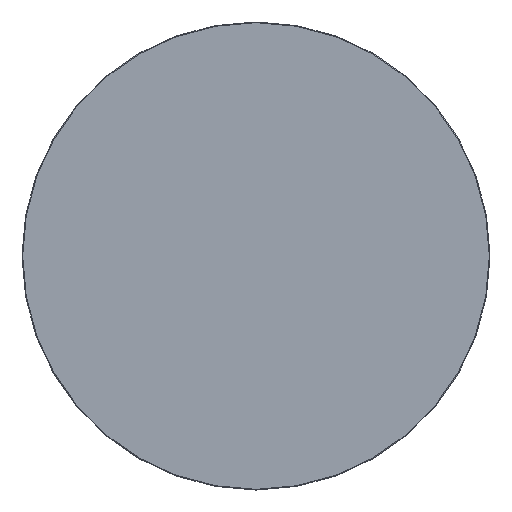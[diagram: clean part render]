
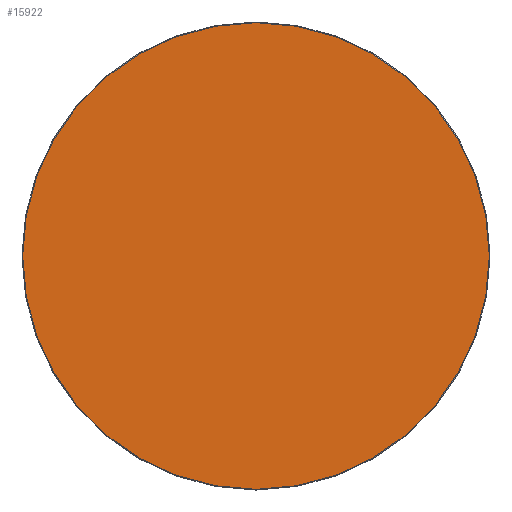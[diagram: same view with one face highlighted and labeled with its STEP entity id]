
A CAD part, top view. The second image highlights one B-rep face of the part: STEP entity #15922.
In plain terms, the highlighted planar face has unit normal (0, 0, 1).
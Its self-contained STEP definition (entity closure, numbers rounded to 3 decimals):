
#15847=CARTESIAN_POINT('',(0.,0.,20.));
#15848=DIRECTION('',(1.,0.,0.));
#15849=DIRECTION('',(0.,0.,1.));
#15850=AXIS2_PLACEMENT_3D('',#15847,#15849,#15848);
#15851=PLANE('',#15850);
#15852=CARTESIAN_POINT('',(-0.5,-498.5,20.));
#15853=VERTEX_POINT('',#15852);
#15854=CARTESIAN_POINT('',(0.5,-498.5,20.));
#15855=VERTEX_POINT('',#15854);
#15856=CARTESIAN_POINT('',(-0.5,-498.5,20.));
#15857=DIRECTION('',(1.,0.,0.));
#15858=VECTOR('',#15857,1.);
#15859=LINE('',#15856,#15858);
#15860=EDGE_CURVE('',#15853,#15855,#15859,.T.);
#15861=ORIENTED_EDGE('E105',*,*,#15860,.T.);
#15862=CARTESIAN_POINT('',(498.5,-0.5,20.));
#15863=VERTEX_POINT('',#15862);
#15864=CARTESIAN_POINT('',(0.5,-0.5,20.));
#15865=DIRECTION('',(0.,-1.,0.));
#15866=DIRECTION('',(0.,-0.,1.));
#15867=AXIS2_PLACEMENT_3D('',#15864,#15866,#15865);
#15868=CIRCLE('',#15867,498.);
#15869=EDGE_CURVE('',#15855,#15863,#15868,.T.);
#15870=ORIENTED_EDGE('E107',*,*,#15869,.T.);
#15871=CARTESIAN_POINT('',(498.5,0.5,20.));
#15872=VERTEX_POINT('',#15871);
#15873=CARTESIAN_POINT('',(498.5,-0.5,20.));
#15874=DIRECTION('',(0.,1.,0.));
#15875=VECTOR('',#15874,1.);
#15876=LINE('',#15873,#15875);
#15877=EDGE_CURVE('',#15863,#15872,#15876,.T.);
#15878=ORIENTED_EDGE('E109',*,*,#15877,.T.);
#15879=CARTESIAN_POINT('',(0.5,498.5,20.));
#15880=VERTEX_POINT('',#15879);
#15881=CARTESIAN_POINT('',(0.5,0.5,20.));
#15882=DIRECTION('',(1.,0.,0.));
#15883=DIRECTION('',(0.,0.,1.));
#15884=AXIS2_PLACEMENT_3D('',#15881,#15883,#15882);
#15885=CIRCLE('',#15884,498.);
#15886=EDGE_CURVE('',#15872,#15880,#15885,.T.);
#15887=ORIENTED_EDGE('E111',*,*,#15886,.T.);
#15888=CARTESIAN_POINT('',(-0.5,498.5,20.));
#15889=VERTEX_POINT('',#15888);
#15890=CARTESIAN_POINT('',(0.5,498.5,20.));
#15891=DIRECTION('',(-1.,0.,0.));
#15892=VECTOR('',#15891,1.);
#15893=LINE('',#15890,#15892);
#15894=EDGE_CURVE('',#15880,#15889,#15893,.T.);
#15895=ORIENTED_EDGE('E113',*,*,#15894,.T.);
#15896=CARTESIAN_POINT('',(-498.5,0.5,20.));
#15897=VERTEX_POINT('',#15896);
#15898=CARTESIAN_POINT('',(-0.5,0.5,20.));
#15899=DIRECTION('',(0.,1.,0.));
#15900=DIRECTION('',(0.,0.,1.));
#15901=AXIS2_PLACEMENT_3D('',#15898,#15900,#15899);
#15902=CIRCLE('',#15901,498.);
#15903=EDGE_CURVE('',#15889,#15897,#15902,.T.);
#15904=ORIENTED_EDGE('E115',*,*,#15903,.T.);
#15905=CARTESIAN_POINT('',(-498.5,-0.5,20.));
#15906=VERTEX_POINT('',#15905);
#15907=CARTESIAN_POINT('',(-498.5,0.5,20.));
#15908=DIRECTION('',(0.,-1.,0.));
#15909=VECTOR('',#15908,1.);
#15910=LINE('',#15907,#15909);
#15911=EDGE_CURVE('',#15897,#15906,#15910,.T.);
#15912=ORIENTED_EDGE('E117',*,*,#15911,.T.);
#15913=CARTESIAN_POINT('',(-0.5,-0.5,20.));
#15914=DIRECTION('',(-1.,0.,0.));
#15915=DIRECTION('',(-0.,0.,1.));
#15916=AXIS2_PLACEMENT_3D('',#15913,#15915,#15914);
#15917=CIRCLE('',#15916,498.);
#15918=EDGE_CURVE('',#15906,#15853,#15917,.T.);
#15919=ORIENTED_EDGE('E119',*,*,#15918,.T.);
#15920=EDGE_LOOP('',(#15861,#15870,#15878,#15887,#15895,#15904,#15912,#15919));
#15921=FACE_OUTER_BOUND('',#15920,.T.);
#15922=ADVANCED_FACE('F2',(#15921),#15851,.T.);
